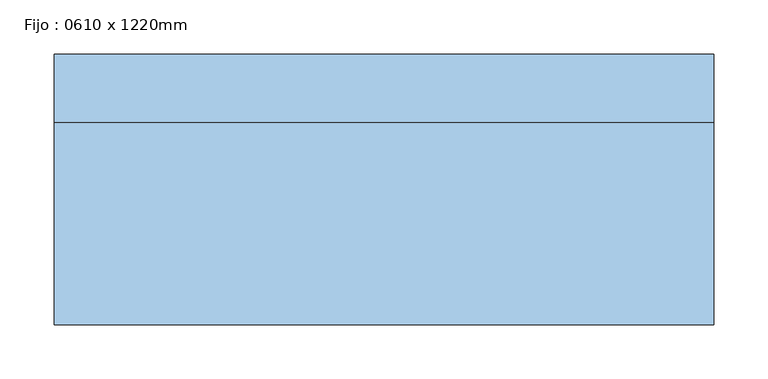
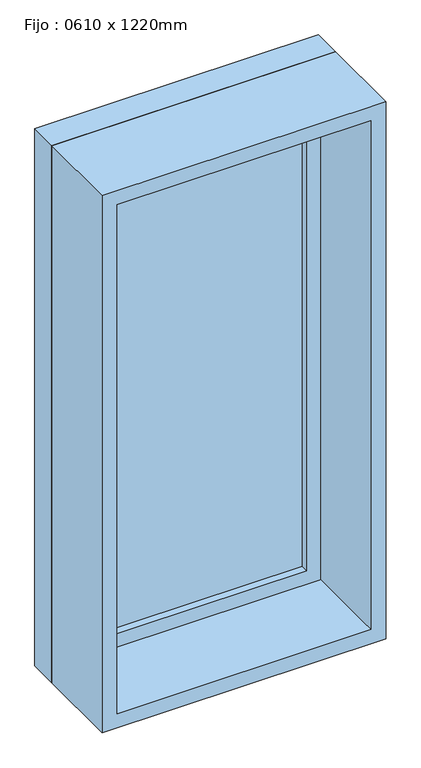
"""IFC4 building model written with IfcOpenShell, lengths in millimetres: window geometry, Fijo : 0610 x 1220mm."""

from ifc_helpers import new_model, si_unit, frame, origin, place, context, project, spatial, polyline, outline, extrude, source, transform, mapped, element, save


def fijo_0610_x_1220mm_edc1b5ed(model_context):
    return source(origin(), model_context, "Body", "SweptSolid", [
        extrude(outline(polyline([(-242.0, 103.0), (242.0, 103.0), (242.0, 91.0), (-242.0, 91.0), (-242.0, 103.0)])), frame((0.0, 0.0, 978.0), z_axis=(0.0, 0.0, 1.0), x_axis=(1.0, 0.0, 0.0)), (0.0, 0.0, 1.0), 1094.0),
        extrude(outline(polyline([(2116.0, -286.0), (934.0, -286.0), (934.0, 286.0), (2116.0, 286.0), (2116.0, -286.0)]), holes=[polyline([(2072.0, -242.0), (2072.0, 242.0), (978.0, 242.0), (978.0, -242.0), (2072.0, -242.0)])]), frame((0.0, 75.0, 0.0), z_axis=(0.0, 1.0, 0.0), x_axis=(0.0, 0.0, 1.0)), (0.0, 0.0, 1.0), 44.0),
        extrude(outline(polyline([(2135.0, -305.0), (915.0, -305.0), (915.0, 305.0), (2135.0, 305.0), (2135.0, -305.0)]), holes=[polyline([(2116.0, -286.0), (2116.0, 286.0), (934.0, 286.0), (934.0, -286.0), (2116.0, -286.0)])]), frame((0.0, 75.0, 0.0), z_axis=(0.0, 1.0, 0.0), x_axis=(0.0, 0.0, 1.0)), (0.0, 0.0, 1.0), 63.0),
        extrude(outline(polyline([(2135.0, -305.0), (915.0, -305.0), (915.0, 305.0), (2135.0, 305.0), (2135.0, -305.0)]), holes=[polyline([(2103.0, -273.0), (2103.0, 273.0), (947.0, 273.0), (947.0, -273.0), (2103.0, -273.0)])]), frame((0.0, -112.0, 0.0), z_axis=(0.0, 1.0, 0.0), x_axis=(0.0, 0.0, 1.0)), (0.0, 0.0, 1.0), 187.0),
    ])


if __name__ == "__main__":
    model = new_model("IFC4")
    model_context = context("Model", 3, world=origin())
    ifc_project = project(units=[si_unit("LENGTHUNIT", "METRE", prefix="MILLI")], contexts=[model_context])
    site = spatial("IfcSite", under=ifc_project)
    building = spatial("IfcBuilding", under=site)
    placement = place(None, origin())
    fijo_0610_x_1220mm_shape = fijo_0610_x_1220mm_edc1b5ed(model_context)
    element("IfcWindow", 1, ObjectType="Fijo : 0610 x 1220mm", at=placement, inside=building, context=model_context, shape_type="MappedRepresentation", body=[
        mapped(fijo_0610_x_1220mm_shape, transform((0.0, 0.0, 0.0), x_axis=(1.0, 0.0, 0.0), y_axis=(0.0, 1.0, 0.0), z_axis=(0.0, 0.0, 1.0))),
    ])
    save(model, "model.ifc")
